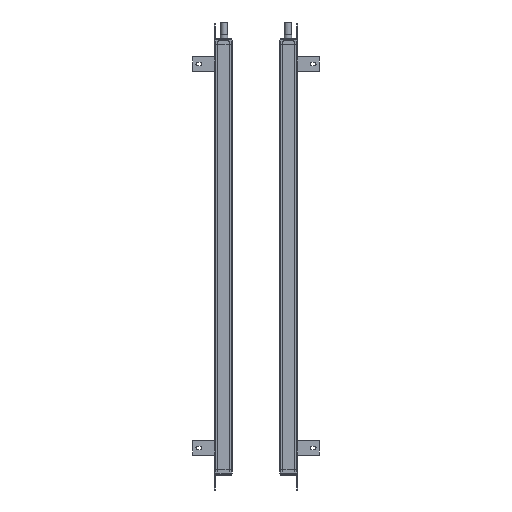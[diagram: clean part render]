
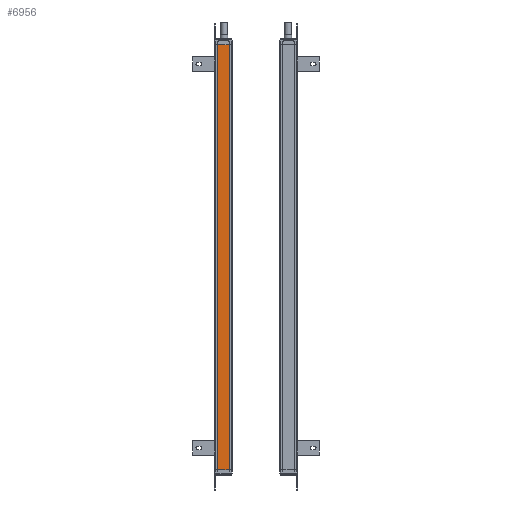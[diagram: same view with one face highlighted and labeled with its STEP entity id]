
A CAD part, left-side view. The second image highlights one B-rep face of the part: STEP entity #6956.
In plain terms, the highlighted planar face has unit normal (-1, 0, 0).
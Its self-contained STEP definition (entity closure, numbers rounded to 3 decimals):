
#953=FACE_OUTER_BOUND('',#9034,.T.);
#2188=LINE('',#33710,#4326);
#2290=LINE('',#34050,#4428);
#2291=LINE('',#34052,#4429);
#2292=LINE('',#34054,#4430);
#4326=VECTOR('',#26897,1.);
#4428=VECTOR('',#27185,1.);
#4429=VECTOR('',#27188,1.);
#4430=VECTOR('',#27189,1.);
#6178=PLANE('',#23723);
#6956=ADVANCED_FACE('',(#953),#6178,.T.);
#9034=EDGE_LOOP('',(#11681,#11682,#11683,#11684));
#11681=ORIENTED_EDGE('',*,*,#19828,.F.);
#11682=ORIENTED_EDGE('',*,*,#19829,.T.);
#11683=ORIENTED_EDGE('',*,*,#19830,.T.);
#11684=ORIENTED_EDGE('',*,*,#19658,.F.);
#17203=VERTEX_POINT('',#33709);
#17204=VERTEX_POINT('',#33711);
#17348=VERTEX_POINT('',#34049);
#17349=VERTEX_POINT('',#34053);
#19658=EDGE_CURVE('',#17203,#17204,#2188,.T.);
#19828=EDGE_CURVE('',#17348,#17203,#2290,.T.);
#19829=EDGE_CURVE('',#17348,#17349,#2291,.T.);
#19830=EDGE_CURVE('',#17349,#17204,#2292,.T.);
#23723=AXIS2_PLACEMENT_3D('',#34055,#27190,#27191);
#26897=DIRECTION('',(0.,-1.,0.));
#27185=DIRECTION('',(0.,0.,1.));
#27188=DIRECTION('',(0.,-1.,0.));
#27189=DIRECTION('',(0.,0.,1.));
#27190=DIRECTION('',(-1.,0.,0.));
#27191=DIRECTION('',(0.,1.,0.));
#33709=CARTESIAN_POINT('',(233.846,104.141,31.645));
#33710=CARTESIAN_POINT('',(233.846,81.141,31.645));
#33711=CARTESIAN_POINT('',(233.846,81.141,31.645));
#34049=CARTESIAN_POINT('',(233.846,104.141,-833.355));
#34050=CARTESIAN_POINT('',(233.846,104.141,-155.355));
#34052=CARTESIAN_POINT('',(233.846,81.141,-833.355));
#34053=CARTESIAN_POINT('',(233.846,81.141,-833.355));
#34054=CARTESIAN_POINT('',(233.846,81.141,-155.355));
#34055=CARTESIAN_POINT('',(233.846,81.141,-50.355));
